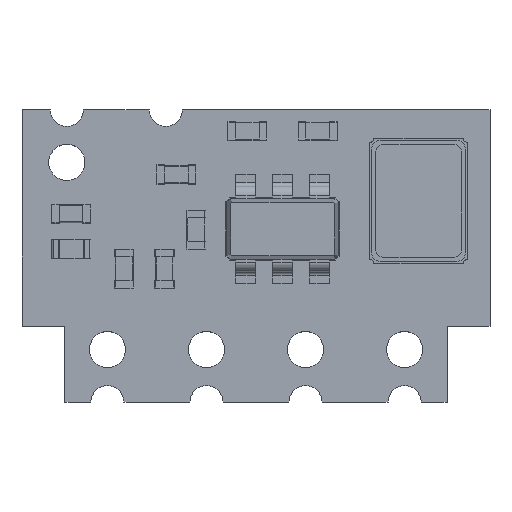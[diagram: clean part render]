
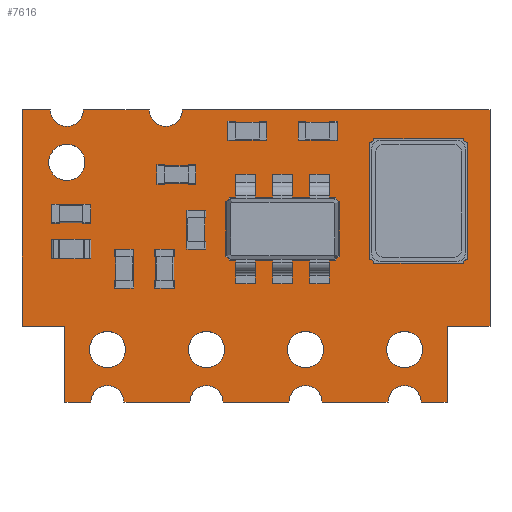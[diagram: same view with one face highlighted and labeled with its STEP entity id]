
A CAD part, top view. The second image highlights one B-rep face of the part: STEP entity #7616.
In plain terms, the highlighted planar face has unit normal (0, 0, 1).
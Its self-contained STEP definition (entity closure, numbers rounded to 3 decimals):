
#7297 = VERTEX_POINT('',#7298);
#7298 = CARTESIAN_POINT('',(6.,-1.8,1.6));
#7304 = EDGE_CURVE('',#7297,#7305,#7307,.T.);
#7305 = VERTEX_POINT('',#7306);
#7306 = CARTESIAN_POINT('',(4.9,-1.8,1.6));
#7307 = LINE('',#7308,#7309);
#7308 = CARTESIAN_POINT('',(6.,-1.8,1.6));
#7309 = VECTOR('',#7310,1.);
#7310 = DIRECTION('',(-1.,0.,0.));
#7337 = VERTEX_POINT('',#7338);
#7338 = CARTESIAN_POINT('',(6.,3.75,1.6));
#7344 = EDGE_CURVE('',#7337,#7297,#7345,.T.);
#7345 = LINE('',#7346,#7347);
#7346 = CARTESIAN_POINT('',(6.,3.75,1.6));
#7347 = VECTOR('',#7348,1.);
#7348 = DIRECTION('',(0.,-1.,0.));
#7366 = EDGE_CURVE('',#7305,#7367,#7369,.T.);
#7367 = VERTEX_POINT('',#7368);
#7368 = CARTESIAN_POINT('',(4.9,-3.75,1.6));
#7369 = LINE('',#7370,#7371);
#7370 = CARTESIAN_POINT('',(4.9,-1.8,1.6));
#7371 = VECTOR('',#7372,1.);
#7372 = DIRECTION('',(0.,-1.,0.));
#7616 = ADVANCED_FACE('',(#7617,#7780,#7791,#7802,#7813,#7824),#7835,.F.
  );
#7617 = FACE_BOUND('',#7618,.F.);
#7618 = EDGE_LOOP('',(#7619,#7620,#7621,#7622,#7630,#7639,#7647,#7656,
    #7664,#7673,#7681,#7690,#7698,#7706,#7714,#7722,#7730,#7739,#7748,
    #7756,#7765,#7774));
#7619 = ORIENTED_EDGE('',*,*,#7344,.T.);
#7620 = ORIENTED_EDGE('',*,*,#7304,.T.);
#7621 = ORIENTED_EDGE('',*,*,#7366,.T.);
#7622 = ORIENTED_EDGE('',*,*,#7623,.T.);
#7623 = EDGE_CURVE('',#7367,#7624,#7626,.T.);
#7624 = VERTEX_POINT('',#7625);
#7625 = CARTESIAN_POINT('',(4.235,-3.75,1.6));
#7626 = LINE('',#7627,#7628);
#7627 = CARTESIAN_POINT('',(4.9,-3.75,1.6));
#7628 = VECTOR('',#7629,1.);
#7629 = DIRECTION('',(-1.,0.,0.));
#7630 = ORIENTED_EDGE('',*,*,#7631,.F.);
#7631 = EDGE_CURVE('',#7632,#7624,#7634,.T.);
#7632 = VERTEX_POINT('',#7633);
#7633 = CARTESIAN_POINT('',(3.385,-3.75,1.6));
#7634 = CIRCLE('',#7635,0.425);
#7635 = AXIS2_PLACEMENT_3D('',#7636,#7637,#7638);
#7636 = CARTESIAN_POINT('',(3.81,-3.75,1.6));
#7637 = DIRECTION('',(-0.,0.,-1.));
#7638 = DIRECTION('',(0.,-1.,-0.));
#7639 = ORIENTED_EDGE('',*,*,#7640,.T.);
#7640 = EDGE_CURVE('',#7632,#7641,#7643,.T.);
#7641 = VERTEX_POINT('',#7642);
#7642 = CARTESIAN_POINT('',(1.695,-3.75,1.6));
#7643 = LINE('',#7644,#7645);
#7644 = CARTESIAN_POINT('',(4.9,-3.75,1.6));
#7645 = VECTOR('',#7646,1.);
#7646 = DIRECTION('',(-1.,0.,0.));
#7647 = ORIENTED_EDGE('',*,*,#7648,.F.);
#7648 = EDGE_CURVE('',#7649,#7641,#7651,.T.);
#7649 = VERTEX_POINT('',#7650);
#7650 = CARTESIAN_POINT('',(0.845,-3.75,1.6));
#7651 = CIRCLE('',#7652,0.425);
#7652 = AXIS2_PLACEMENT_3D('',#7653,#7654,#7655);
#7653 = CARTESIAN_POINT('',(1.27,-3.75,1.6));
#7654 = DIRECTION('',(-0.,0.,-1.));
#7655 = DIRECTION('',(-0.,-1.,0.));
#7656 = ORIENTED_EDGE('',*,*,#7657,.T.);
#7657 = EDGE_CURVE('',#7649,#7658,#7660,.T.);
#7658 = VERTEX_POINT('',#7659);
#7659 = CARTESIAN_POINT('',(-0.845,-3.75,1.6));
#7660 = LINE('',#7661,#7662);
#7661 = CARTESIAN_POINT('',(4.9,-3.75,1.6));
#7662 = VECTOR('',#7663,1.);
#7663 = DIRECTION('',(-1.,0.,0.));
#7664 = ORIENTED_EDGE('',*,*,#7665,.F.);
#7665 = EDGE_CURVE('',#7666,#7658,#7668,.T.);
#7666 = VERTEX_POINT('',#7667);
#7667 = CARTESIAN_POINT('',(-1.695,-3.75,1.6));
#7668 = CIRCLE('',#7669,0.425);
#7669 = AXIS2_PLACEMENT_3D('',#7670,#7671,#7672);
#7670 = CARTESIAN_POINT('',(-1.27,-3.75,1.6));
#7671 = DIRECTION('',(-0.,0.,-1.));
#7672 = DIRECTION('',(0.,-1.,0.));
#7673 = ORIENTED_EDGE('',*,*,#7674,.T.);
#7674 = EDGE_CURVE('',#7666,#7675,#7677,.T.);
#7675 = VERTEX_POINT('',#7676);
#7676 = CARTESIAN_POINT('',(-3.385,-3.75,1.6));
#7677 = LINE('',#7678,#7679);
#7678 = CARTESIAN_POINT('',(4.9,-3.75,1.6));
#7679 = VECTOR('',#7680,1.);
#7680 = DIRECTION('',(-1.,0.,0.));
#7681 = ORIENTED_EDGE('',*,*,#7682,.F.);
#7682 = EDGE_CURVE('',#7683,#7675,#7685,.T.);
#7683 = VERTEX_POINT('',#7684);
#7684 = CARTESIAN_POINT('',(-4.235,-3.75,1.6));
#7685 = CIRCLE('',#7686,0.425);
#7686 = AXIS2_PLACEMENT_3D('',#7687,#7688,#7689);
#7687 = CARTESIAN_POINT('',(-3.81,-3.75,1.6));
#7688 = DIRECTION('',(-0.,0.,-1.));
#7689 = DIRECTION('',(0.,-1.,-0.));
#7690 = ORIENTED_EDGE('',*,*,#7691,.T.);
#7691 = EDGE_CURVE('',#7683,#7692,#7694,.T.);
#7692 = VERTEX_POINT('',#7693);
#7693 = CARTESIAN_POINT('',(-4.9,-3.75,1.6));
#7694 = LINE('',#7695,#7696);
#7695 = CARTESIAN_POINT('',(4.9,-3.75,1.6));
#7696 = VECTOR('',#7697,1.);
#7697 = DIRECTION('',(-1.,0.,0.));
#7698 = ORIENTED_EDGE('',*,*,#7699,.T.);
#7699 = EDGE_CURVE('',#7692,#7700,#7702,.T.);
#7700 = VERTEX_POINT('',#7701);
#7701 = CARTESIAN_POINT('',(-4.9,-1.8,1.6));
#7702 = LINE('',#7703,#7704);
#7703 = CARTESIAN_POINT('',(-4.9,-3.75,1.6));
#7704 = VECTOR('',#7705,1.);
#7705 = DIRECTION('',(0.,1.,0.));
#7706 = ORIENTED_EDGE('',*,*,#7707,.T.);
#7707 = EDGE_CURVE('',#7700,#7708,#7710,.T.);
#7708 = VERTEX_POINT('',#7709);
#7709 = CARTESIAN_POINT('',(-6.,-1.8,1.6));
#7710 = LINE('',#7711,#7712);
#7711 = CARTESIAN_POINT('',(-4.9,-1.8,1.6));
#7712 = VECTOR('',#7713,1.);
#7713 = DIRECTION('',(-1.,0.,0.));
#7714 = ORIENTED_EDGE('',*,*,#7715,.T.);
#7715 = EDGE_CURVE('',#7708,#7716,#7718,.T.);
#7716 = VERTEX_POINT('',#7717);
#7717 = CARTESIAN_POINT('',(-6.,3.75,1.6));
#7718 = LINE('',#7719,#7720);
#7719 = CARTESIAN_POINT('',(-6.,-1.8,1.6));
#7720 = VECTOR('',#7721,1.);
#7721 = DIRECTION('',(0.,1.,0.));
#7722 = ORIENTED_EDGE('',*,*,#7723,.T.);
#7723 = EDGE_CURVE('',#7716,#7724,#7726,.T.);
#7724 = VERTEX_POINT('',#7725);
#7725 = CARTESIAN_POINT('',(-5.275,3.75,1.6));
#7726 = LINE('',#7727,#7728);
#7727 = CARTESIAN_POINT('',(-6.,3.75,1.6));
#7728 = VECTOR('',#7729,1.);
#7729 = DIRECTION('',(1.,0.,0.));
#7730 = ORIENTED_EDGE('',*,*,#7731,.F.);
#7731 = EDGE_CURVE('',#7732,#7724,#7734,.T.);
#7732 = VERTEX_POINT('',#7733);
#7733 = CARTESIAN_POINT('',(-4.85,3.325,1.6));
#7734 = CIRCLE('',#7735,0.425);
#7735 = AXIS2_PLACEMENT_3D('',#7736,#7737,#7738);
#7736 = CARTESIAN_POINT('',(-4.85,3.75,1.6));
#7737 = DIRECTION('',(-0.,0.,-1.));
#7738 = DIRECTION('',(-0.,-1.,0.));
#7739 = ORIENTED_EDGE('',*,*,#7740,.F.);
#7740 = EDGE_CURVE('',#7741,#7732,#7743,.T.);
#7741 = VERTEX_POINT('',#7742);
#7742 = CARTESIAN_POINT('',(-4.425,3.75,1.6));
#7743 = CIRCLE('',#7744,0.425);
#7744 = AXIS2_PLACEMENT_3D('',#7745,#7746,#7747);
#7745 = CARTESIAN_POINT('',(-4.85,3.75,1.6));
#7746 = DIRECTION('',(-0.,0.,-1.));
#7747 = DIRECTION('',(-0.,-1.,0.));
#7748 = ORIENTED_EDGE('',*,*,#7749,.T.);
#7749 = EDGE_CURVE('',#7741,#7750,#7752,.T.);
#7750 = VERTEX_POINT('',#7751);
#7751 = CARTESIAN_POINT('',(-2.735,3.75,1.6));
#7752 = LINE('',#7753,#7754);
#7753 = CARTESIAN_POINT('',(-6.,3.75,1.6));
#7754 = VECTOR('',#7755,1.);
#7755 = DIRECTION('',(1.,0.,0.));
#7756 = ORIENTED_EDGE('',*,*,#7757,.F.);
#7757 = EDGE_CURVE('',#7758,#7750,#7760,.T.);
#7758 = VERTEX_POINT('',#7759);
#7759 = CARTESIAN_POINT('',(-2.31,3.325,1.6));
#7760 = CIRCLE('',#7761,0.425);
#7761 = AXIS2_PLACEMENT_3D('',#7762,#7763,#7764);
#7762 = CARTESIAN_POINT('',(-2.31,3.75,1.6));
#7763 = DIRECTION('',(-0.,0.,-1.));
#7764 = DIRECTION('',(0.,-1.,-0.));
#7765 = ORIENTED_EDGE('',*,*,#7766,.F.);
#7766 = EDGE_CURVE('',#7767,#7758,#7769,.T.);
#7767 = VERTEX_POINT('',#7768);
#7768 = CARTESIAN_POINT('',(-1.885,3.75,1.6));
#7769 = CIRCLE('',#7770,0.425);
#7770 = AXIS2_PLACEMENT_3D('',#7771,#7772,#7773);
#7771 = CARTESIAN_POINT('',(-2.31,3.75,1.6));
#7772 = DIRECTION('',(-0.,0.,-1.));
#7773 = DIRECTION('',(0.,-1.,-0.));
#7774 = ORIENTED_EDGE('',*,*,#7775,.T.);
#7775 = EDGE_CURVE('',#7767,#7337,#7776,.T.);
#7776 = LINE('',#7777,#7778);
#7777 = CARTESIAN_POINT('',(-6.,3.75,1.6));
#7778 = VECTOR('',#7779,1.);
#7779 = DIRECTION('',(1.,0.,0.));
#7780 = FACE_BOUND('',#7781,.F.);
#7781 = EDGE_LOOP('',(#7782));
#7782 = ORIENTED_EDGE('',*,*,#7783,.F.);
#7783 = EDGE_CURVE('',#7784,#7784,#7786,.T.);
#7784 = VERTEX_POINT('',#7785);
#7785 = CARTESIAN_POINT('',(3.81,-2.865,1.6));
#7786 = CIRCLE('',#7787,0.465);
#7787 = AXIS2_PLACEMENT_3D('',#7788,#7789,#7790);
#7788 = CARTESIAN_POINT('',(3.81,-2.4,1.6));
#7789 = DIRECTION('',(-0.,0.,-1.));
#7790 = DIRECTION('',(0.,-1.,-0.));
#7791 = FACE_BOUND('',#7792,.F.);
#7792 = EDGE_LOOP('',(#7793));
#7793 = ORIENTED_EDGE('',*,*,#7794,.F.);
#7794 = EDGE_CURVE('',#7795,#7795,#7797,.T.);
#7795 = VERTEX_POINT('',#7796);
#7796 = CARTESIAN_POINT('',(1.27,-2.865,1.6));
#7797 = CIRCLE('',#7798,0.465);
#7798 = AXIS2_PLACEMENT_3D('',#7799,#7800,#7801);
#7799 = CARTESIAN_POINT('',(1.27,-2.4,1.6));
#7800 = DIRECTION('',(-0.,0.,-1.));
#7801 = DIRECTION('',(-0.,-1.,0.));
#7802 = FACE_BOUND('',#7803,.F.);
#7803 = EDGE_LOOP('',(#7804));
#7804 = ORIENTED_EDGE('',*,*,#7805,.F.);
#7805 = EDGE_CURVE('',#7806,#7806,#7808,.T.);
#7806 = VERTEX_POINT('',#7807);
#7807 = CARTESIAN_POINT('',(-1.27,-2.865,1.6));
#7808 = CIRCLE('',#7809,0.465);
#7809 = AXIS2_PLACEMENT_3D('',#7810,#7811,#7812);
#7810 = CARTESIAN_POINT('',(-1.27,-2.4,1.6));
#7811 = DIRECTION('',(-0.,0.,-1.));
#7812 = DIRECTION('',(0.,-1.,0.));
#7813 = FACE_BOUND('',#7814,.F.);
#7814 = EDGE_LOOP('',(#7815));
#7815 = ORIENTED_EDGE('',*,*,#7816,.F.);
#7816 = EDGE_CURVE('',#7817,#7817,#7819,.T.);
#7817 = VERTEX_POINT('',#7818);
#7818 = CARTESIAN_POINT('',(-3.81,-2.865,1.6));
#7819 = CIRCLE('',#7820,0.465);
#7820 = AXIS2_PLACEMENT_3D('',#7821,#7822,#7823);
#7821 = CARTESIAN_POINT('',(-3.81,-2.4,1.6));
#7822 = DIRECTION('',(-0.,0.,-1.));
#7823 = DIRECTION('',(0.,-1.,-0.));
#7824 = FACE_BOUND('',#7825,.F.);
#7825 = EDGE_LOOP('',(#7826));
#7826 = ORIENTED_EDGE('',*,*,#7827,.F.);
#7827 = EDGE_CURVE('',#7828,#7828,#7830,.T.);
#7828 = VERTEX_POINT('',#7829);
#7829 = CARTESIAN_POINT('',(-4.85,1.935,1.6));
#7830 = CIRCLE('',#7831,0.465);
#7831 = AXIS2_PLACEMENT_3D('',#7832,#7833,#7834);
#7832 = CARTESIAN_POINT('',(-4.85,2.4,1.6));
#7833 = DIRECTION('',(-0.,0.,-1.));
#7834 = DIRECTION('',(-0.,-1.,0.));
#7835 = PLANE('',#7836);
#7836 = AXIS2_PLACEMENT_3D('',#7837,#7838,#7839);
#7837 = CARTESIAN_POINT('',(0.,0.11,1.6));
#7838 = DIRECTION('',(-0.,-0.,-1.));
#7839 = DIRECTION('',(-1.,0.,0.));
